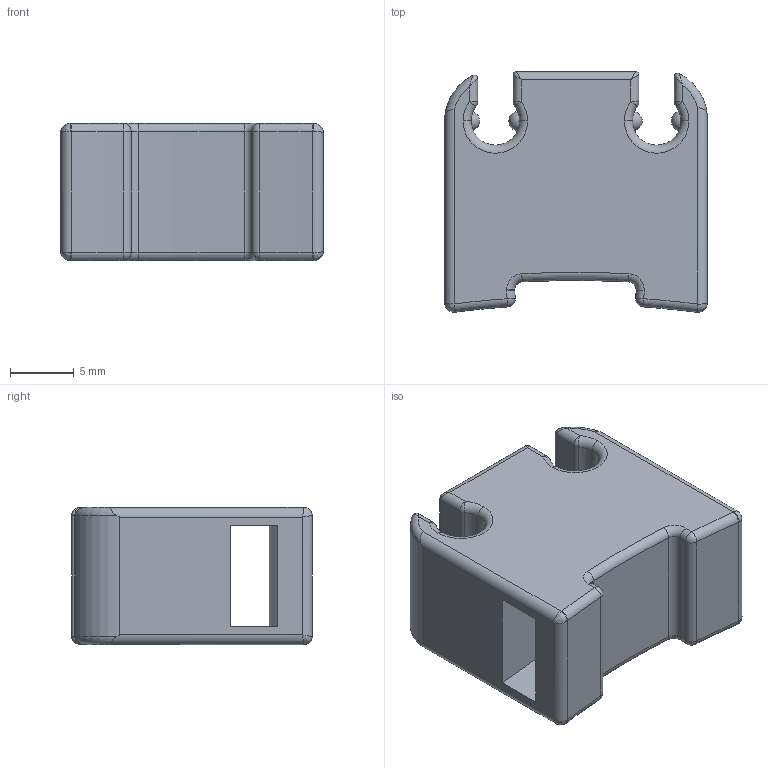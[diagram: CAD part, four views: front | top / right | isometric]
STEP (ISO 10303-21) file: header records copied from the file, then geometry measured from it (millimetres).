
FILE_DESCRIPTION (( 'STEP AP203' ), '1' );
FILE_NAME ('5012632_REV-A - 2X 0.156 TUBING MOUNTING CLIP.STEP', '2026-08-27T16:22:47', ( '' ), ( '' ), 'SwSTEP 2.0', 'SolidWorks 2019', '' );
FILE_SCHEMA (( 'CONFIG_CONTROL_DESIGN' ));
Length unit declared in the file: inch
Products named in the file (1): 5012632_REV-A - 2X 0.156 TUBING MOUNTING CLIP
Bounding box: 20.7 x 18.94 x 10.79 mm (x, y, z)
Volume: 2877.7 mm3; surface area: 2102.5 mm2
Topology: 1 solids, 1 shells, 126 faces, 300 edges, 158 vertices
Faces by surface type: cylinder 47, torus 32, sphere 22, plane 13, bspline 12
Entity records: 4098 total; most frequent: CARTESIAN_POINT 1302, DIRECTION 610, ORIENTED_EDGE 560, EDGE_CURVE 280, AXIS2_PLACEMENT_3D 263, VERTEX_POINT 156, CIRCLE 148, EDGE_LOOP 128
